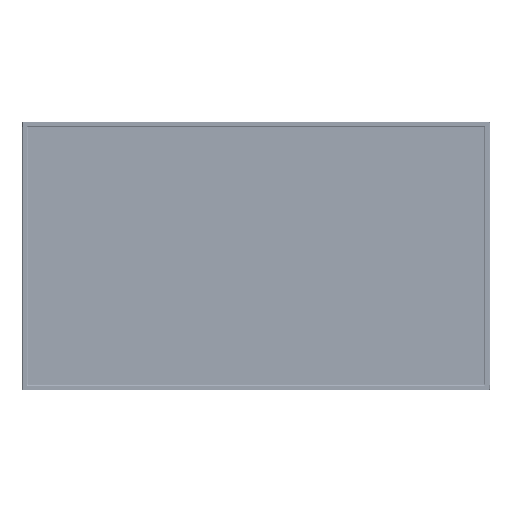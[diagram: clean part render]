
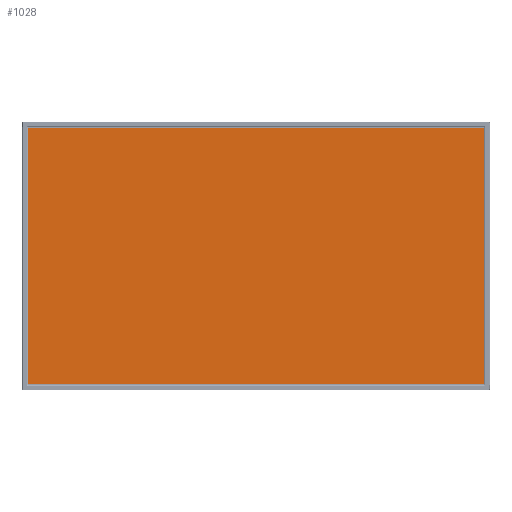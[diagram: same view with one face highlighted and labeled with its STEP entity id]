
A CAD part, top view. The second image highlights one B-rep face of the part: STEP entity #1028.
In plain terms, the highlighted planar face has unit normal (0, 0, 1).
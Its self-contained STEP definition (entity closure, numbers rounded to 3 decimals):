
#883=DIRECTION('',(0.,1.,0.));
#884=VECTOR('',#883,529.416);
#885=CARTESIAN_POINT('',(470.592,-264.708,0.615));
#886=LINE('',#885,#884);
#887=DIRECTION('',(-1.,0.,0.));
#888=VECTOR('',#887,941.184);
#889=CARTESIAN_POINT('',(470.592,264.708,0.615));
#890=LINE('',#889,#888);
#891=DIRECTION('',(0.,-1.,0.));
#892=VECTOR('',#891,529.416);
#893=CARTESIAN_POINT('',(-470.592,264.708,0.615));
#894=LINE('',#893,#892);
#895=DIRECTION('',(1.,0.,0.));
#896=VECTOR('',#895,941.184);
#897=CARTESIAN_POINT('',(-470.592,-264.708,0.615));
#898=LINE('',#897,#896);
#915=CARTESIAN_POINT('',(470.592,-264.708,0.615));
#916=CARTESIAN_POINT('',(470.592,264.708,0.615));
#917=VERTEX_POINT('',#915);
#918=VERTEX_POINT('',#916);
#919=CARTESIAN_POINT('',(-470.592,264.708,0.615));
#920=VERTEX_POINT('',#919);
#921=CARTESIAN_POINT('',(-470.592,-264.708,0.615));
#922=VERTEX_POINT('',#921);
#1017=CARTESIAN_POINT('',(0.,0.,0.565));
#1018=DIRECTION('',(0.,0.,1.));
#1019=DIRECTION('',(1.,0.,0.));
#1020=AXIS2_PLACEMENT_3D('',#1017,#1018,#1019);
#1021=PLANE('',#1020);
#1022=ORIENTED_EDGE('',*,*,#1006,.F.);
#1023=ORIENTED_EDGE('',*,*,#1012,.F.);
#1024=ORIENTED_EDGE('',*,*,#1010,.F.);
#1025=ORIENTED_EDGE('',*,*,#1008,.F.);
#1026=EDGE_LOOP('',(#1022,#1023,#1024,#1025));
#1027=FACE_OUTER_BOUND('',#1026,.F.);
#1028=ADVANCED_FACE('',(#1027),#1021,.T.);
#1006=EDGE_CURVE('',#917,#918,#886,.T.);
#1008=EDGE_CURVE('',#918,#920,#890,.T.);
#1010=EDGE_CURVE('',#920,#922,#894,.T.);
#1012=EDGE_CURVE('',#922,#917,#898,.T.);
